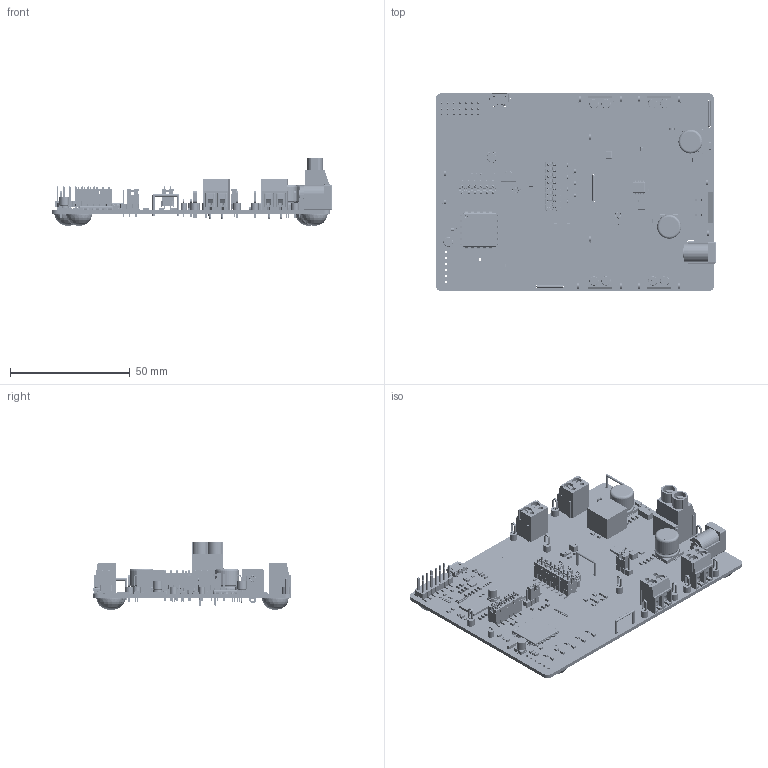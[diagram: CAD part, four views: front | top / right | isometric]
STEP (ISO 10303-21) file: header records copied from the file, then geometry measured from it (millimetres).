
FILE_DESCRIPTION(('Open CASCADE Model'),'2;1');
FILE_NAME('Open CASCADE Shape Model','2024-07-22T11:49:10',('Author'),( 'Open CASCADE'),'Open CASCADE STEP processor 7.5','Open CASCADE 7.5' ,'Unknown');
FILE_SCHEMA(('AUTOMOTIVE_DESIGN { 1 0 10303 214 1 1 1 1 }'));
Length unit declared in the file: millimetre
Products named in the file (475): PCB; Board; Open CASCADE STEP translator 7.5 1.1.1; J2; 694106301002; 694106301002_7; 694106301002_2; 694106301002_1; 694106301002_6; 694106301002_3; 694106301002_5; TP20; Keystone_5010; Keystone_multipurpose_wire; Keystone5005_red; U7; 6388133520; Extruded; 6388133680; C9; Cap_885012205018_0402; terminals; body; logo; TP35; Keystone_5011; Keystone5006_black; TP1; R68; 6388133040; 6388132880; J11; Conn_629105150921_CONN_PTH_USB_8MM0_5MM6; A1; 629105150921; 629105150921_Pin; 629105150921_1; Wurth Electronik; notch; R56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
Assembly tree (821 placements, depth 5):
  PCB
    Board
      Open CASCADE STEP translator 7.5 1.1.1
    J2
      694106301002
        694106301002_7
        694106301002_2
        694106301002_1
        694106301002_6
        694106301002_3
        694106301002_5
    TP20
      Keystone_5010
        Keystone_multipurpose_wire
        Keystone5005_red
    U7
      6388133520
        Extruded
      6388133680
        Extruded
    C9
      Cap_885012205018_0402
        terminals
        body
        logo
    TP35
      Keystone_5011
        Keystone_multipurpose_wire
        Keystone5006_black
    TP1
      Keystone_5011
        Keystone_multipurpose_wire
        Keystone5006_black
    R68
      6388133040  x2
        Extruded
      6388132880
        Extruded
    J11
      Conn_629105150921_CONN_PTH_USB_8MM0_5MM6
        A1
          629105150921
          629105150921_Pin  x5
          629105150921_1
        Wurth Electronik
        notch
    R56
      6388132640  x2
        Extruded
      6388132480
        Extruded
    R58
      6388133040  x2
        Extruded
      6388132880
        Extruded
    R59
      6388133040  x2
        Extruded
      6388132880
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Bounding box: 116.99 x 82.85 x 28.17 mm (x, y, z)
Volume: 28279.2 mm3; surface area: 48379.3 mm2
Topology: 1307 solids, 1307 shells, 25236 faces, 64644 edges, 42014 vertices
Faces by surface type: plane 18436, cylinder 3614, bspline 2531, sphere 386, torus 239, cone 26, revolution 4
Full cylindrical faces by diameter (mm): 0.005 x4, 0.191 x1, 0.37 x1, 0.5 x2, 0.58 x2, 0.75 x2, 0.9 x12, 0.95 x8, 0.98 x2, 1.016 x15, 1.05 x9, 1.127 x6, 1.138 x2, 1.15 x6, 1.3 x14, 1.357 x1, 1.5 x3, 1.6 x16, 1.8 x1, 2 x5, 2.2 x8, 2.42 x2, 2.459 x8, 2.5 x10, 2.8 x2, 3 x25, 3.1 x8, 3.15 x1, 3.2 x16, 3.56 x2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
Entity records: 408219 total; most frequent: CARTESIAN_POINT 77444, ORIENTED_EDGE 59112, DIRECTION 54038, EDGE_CURVE 29556, LINE 23167, VECTOR 23167, VERTEX_POINT 19297, AXIS2_PLACEMENT_3D 15435
